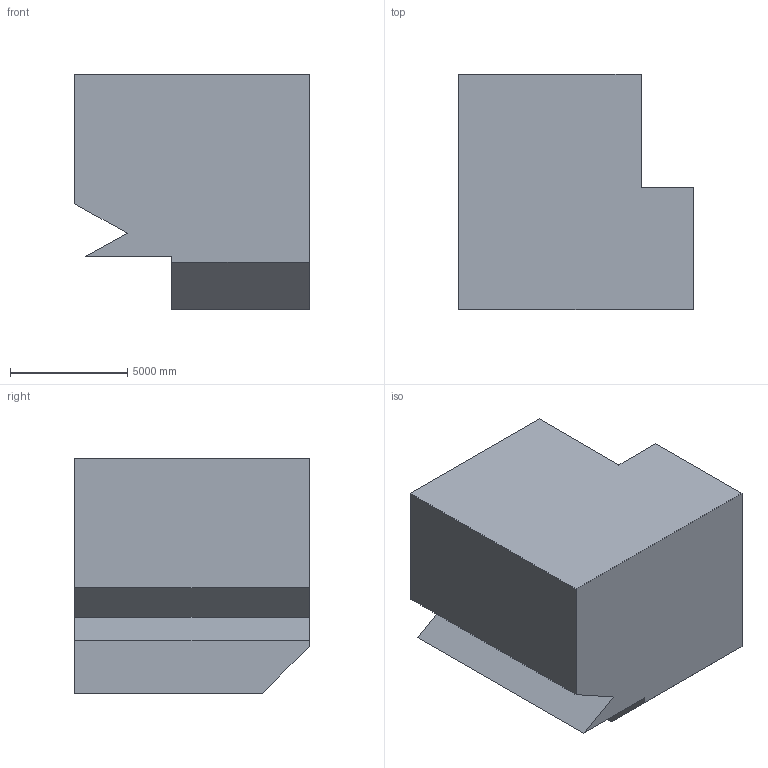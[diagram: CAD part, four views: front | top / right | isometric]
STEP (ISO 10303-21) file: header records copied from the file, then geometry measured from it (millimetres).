
FILE_DESCRIPTION (( 'STEP AP203' ), '1' );
FILE_NAME ('1371.STEP', '2022-08-18T14:05:48', ( 'user' ), ( '' ), 'SwSTEP 2.0', 'SolidWorks 2021', '' );
FILE_SCHEMA (( 'CONFIG_CONTROL_DESIGN' ));
Length unit declared in the file: centimetre
Products named in the file (1): 1371
Bounding box: 10000 x 10000 x 10000 mm (x, y, z)
Volume: 724126928698.6 mm3; surface area: 564844961.7 mm2
Topology: 1 solids, 1 shells, 14 faces, 36 edges, 24 vertices
Faces by surface type: plane 14
Entity records: 497 total; most frequent: CARTESIAN_POINT 75, ORIENTED_EDGE 72, DIRECTION 66, EDGE_CURVE 36, VECTOR 36, LINE 36, VERTEX_POINT 24, AXIS2_PLACEMENT_3D 15
